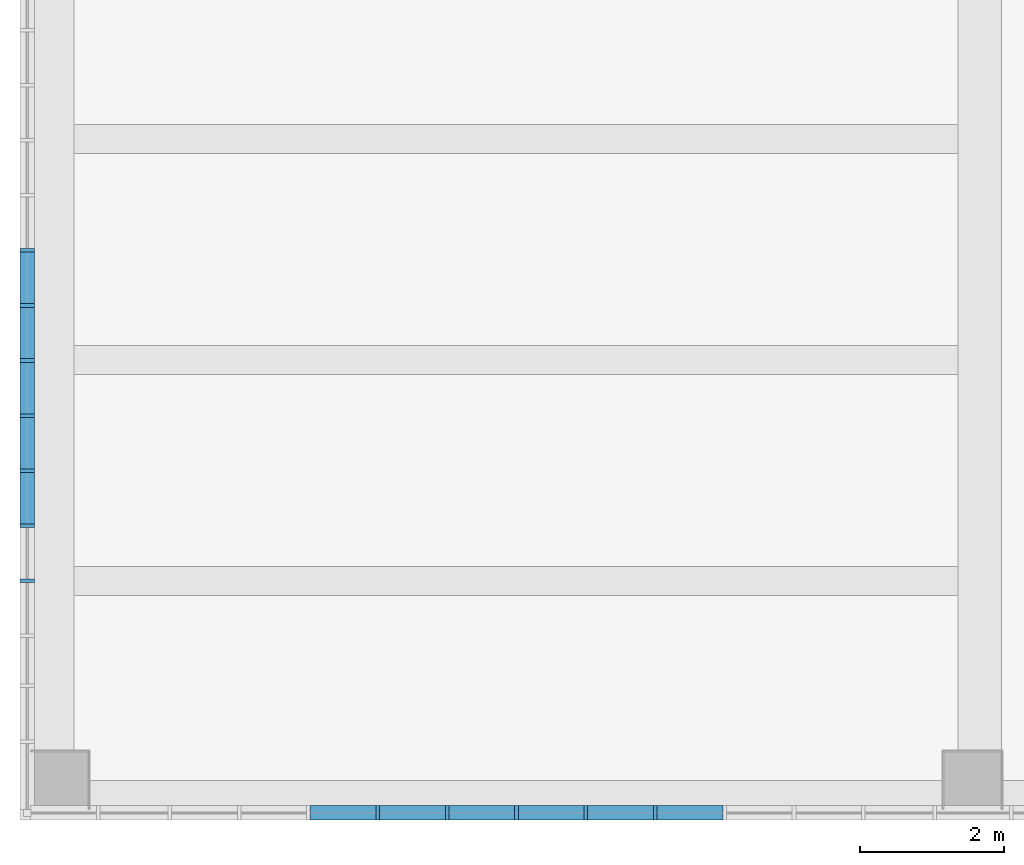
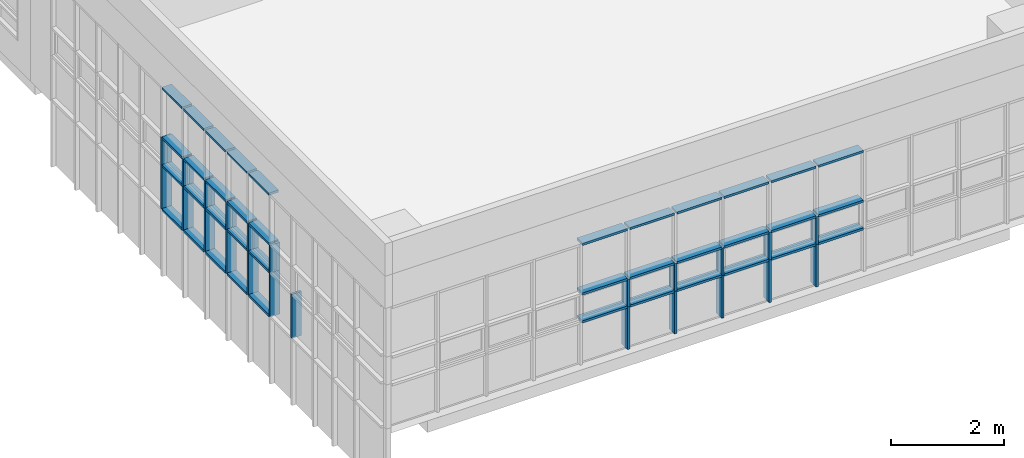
# One storey, part 11 of 81: 61 members, 2 elements without a shape of their own.
"""IFC2X3 building model written with IfcOpenShell, lengths in millimetres."""

from ifc_helpers import new_model, entity, si_unit, converted_unit, derived_unit, direction, frame, origin, origin_2d_with_axis, place, context, subcontext, project, spatial, rectangle, extrude, source, transform, mapped, material, type_object, type_shapes, element, aggregate, save


model = new_model("IFC2X3")

# Units and contexts
model_context = context("Model", 3, precision=0.01, world=origin(), true_north=direction((6.123031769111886e-17, 1.0)))
body_context = subcontext(model_context, "Body", "Model", "MODEL_VIEW")
ifc_project = project(units=[si_unit("LENGTHUNIT", "METRE", prefix="MILLI"), si_unit("AREAUNIT", "SQUARE_METRE"), si_unit("VOLUMEUNIT", "CUBIC_METRE"), converted_unit("PLANEANGLEUNIT", "DEGREE", entity("IfcRatioMeasure", 0.017453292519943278), si_unit("PLANEANGLEUNIT", "RADIAN"), dimensions=[0, 0, 0, 0, 0, 0, 0]), si_unit("MASSUNIT", "GRAM", prefix="KILO"), derived_unit("MASSDENSITYUNIT", [(si_unit("MASSUNIT", "GRAM", prefix="KILO"), 1), (si_unit("LENGTHUNIT", "METRE"), -3)]), derived_unit("MOMENTOFINERTIAUNIT", [(si_unit("LENGTHUNIT", "METRE"), 4)]), si_unit("TIMEUNIT", "SECOND"), si_unit("FREQUENCYUNIT", "HERTZ"), si_unit("THERMODYNAMICTEMPERATUREUNIT", "DEGREE_CELSIUS"), derived_unit("THERMALTRANSMITTANCEUNIT", [(si_unit("MASSUNIT", "GRAM", prefix="KILO"), 1), (si_unit("THERMODYNAMICTEMPERATUREUNIT", "KELVIN"), -1), (si_unit("TIMEUNIT", "SECOND"), -3)]), derived_unit("VOLUMETRICFLOWRATEUNIT", [(si_unit("LENGTHUNIT", "METRE"), 3), (si_unit("TIMEUNIT", "SECOND"), -1)]), derived_unit("MASSFLOWRATEUNIT", [(si_unit("MASSUNIT", "GRAM", prefix="KILO"), 1), (si_unit("TIMEUNIT", "SECOND"), -1)]), derived_unit("ROTATIONALFREQUENCYUNIT", [(si_unit("TIMEUNIT", "SECOND"), -1)]), si_unit("ELECTRICCURRENTUNIT", "AMPERE"), si_unit("ELECTRICVOLTAGEUNIT", "VOLT"), si_unit("POWERUNIT", "WATT"), si_unit("FORCEUNIT", "NEWTON", prefix="KILO"), si_unit("ILLUMINANCEUNIT", "LUX"), si_unit("LUMINOUSFLUXUNIT", "LUMEN"), si_unit("LUMINOUSINTENSITYUNIT", "CANDELA"), derived_unit("USERDEFINED", [(si_unit("MASSUNIT", "GRAM", prefix="KILO"), -1), (si_unit("LENGTHUNIT", "METRE"), -2), (si_unit("TIMEUNIT", "SECOND"), 3), (si_unit("LUMINOUSFLUXUNIT", "LUMEN"), 1)]), derived_unit("SOUNDPOWERUNIT", [(si_unit("MASSUNIT", "GRAM", prefix="KILO"), 1), (si_unit("LENGTHUNIT", "METRE"), 2), (si_unit("TIMEUNIT", "SECOND"), -3)]), derived_unit("SOUNDPRESSUREUNIT", [(si_unit("MASSUNIT", "GRAM", prefix="KILO"), 1), (si_unit("LENGTHUNIT", "METRE"), -1), (si_unit("TIMEUNIT", "SECOND"), -2)]), derived_unit("LINEARVELOCITYUNIT", [(si_unit("LENGTHUNIT", "METRE"), 1), (si_unit("TIMEUNIT", "SECOND"), -1)]), si_unit("PRESSUREUNIT", "PASCAL"), derived_unit("USERDEFINED", [(si_unit("LENGTHUNIT", "METRE"), -2), (si_unit("MASSUNIT", "GRAM", prefix="KILO"), 1), (si_unit("TIMEUNIT", "SECOND"), -2)]), derived_unit("LINEARFORCEUNIT", [(si_unit("MASSUNIT", "GRAM", prefix="KILO"), 1), (si_unit("LENGTHUNIT", "METRE"), 1), (si_unit("TIMEUNIT", "SECOND"), -2), (si_unit("LENGTHUNIT", "METRE"), -1)]), derived_unit("PLANARFORCEUNIT", [(si_unit("MASSUNIT", "GRAM", prefix="KILO"), 1), (si_unit("LENGTHUNIT", "METRE"), 1), (si_unit("TIMEUNIT", "SECOND"), -2), (si_unit("LENGTHUNIT", "METRE"), -2)])], contexts=[model_context])

# Site, building, storey
site_placement = place(None, frame((-14167.972527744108, -657.2125860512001, 0.0)))
site = spatial("IfcSite", under=ifc_project, at=site_placement, Name="Default", CompositionType="ELEMENT")
building_placement = place(site_placement, origin())
building = spatial("IfcBuilding", under=site, at=building_placement, Name="Sample Building", CompositionType="ELEMENT")
storey_placement = place(building_placement, frame((0.0, 0.0, 13400.0)))
storey = spatial("IfcBuildingStorey", under=building, at=storey_placement, Name="지상 4층", CompositionType="ELEMENT", Elevation=13400.00000000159)

# Curtain wall, members
curtain_wall_type = type_object("IfcCurtainWallType", Name="커튼월:CW112-스테인리스 스틸 커튼월", PredefinedType="NOTDEFINED")
curtain_wall_1_placement = place(storey_placement, frame((0.0, 0.0, -13400.0)))
curtain_wall_1 = element("IfcCurtainWall", 1, at=curtain_wall_1_placement, inside=storey, type_object=curtain_wall_type, Name="커튼월:CW112-스테인리스 스틸 커튼월", ObjectType="커튼월:CW112-스테인리스 스틸 커튼월")
ifc_material = material(Name="<Unnamed>")
member_type_1 = type_object("IfcMemberType", Name="직사각형 멀리언:CW200-직사각형 멀리언 50x200mm", PredefinedType="MULLION", material=ifc_material)
shared_shape_1 = source(origin(), body_context, "Body", "SweptSolid", [
    extrude(rectangle(XDim=200.0, YDim=50.0, at=origin_2d_with_axis()), frame((0.0, 0.0, -600.0), z_axis=(0.0, 0.0, 1.0), x_axis=(0.0, -1.0, 0.0)), (0.0, 0.0, 1.0), 600.0),
])
type_shapes(member_type_1, [shared_shape_1])
member_1_placement = place(curtain_wall_1_placement, frame((14017.955105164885, 4501.817707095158, 14400.0), z_axis=(0.0, 0.0, -1.0), x_axis=(0.0, -1.0, 0.0)))
member_1 = element("IfcMember", 2, at=member_1_placement, type_object=member_type_1, material=ifc_material, Name="직사각형 멀리언:CW200-직사각형 멀리언 50x200mm", ObjectType="직사각형 멀리언:CW200-직사각형 멀리언 50x200mm", context=body_context, shape_type="MappedRepresentation", body=[
    mapped(shared_shape_1, transform((0.0, 0.0, 0.0), scale=1.0)),
])
member_2_placement = place(curtain_wall_1_placement, frame((14017.955105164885, 5267.817707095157, 14400.0), z_axis=(0.0, 0.0, -1.0), x_axis=(0.0, -1.0, 0.0)))
member_2 = element("IfcMember", 3, at=member_2_placement, type_object=member_type_1, material=ifc_material, Name="직사각형 멀리언:CW200-직사각형 멀리언 50x200mm", ObjectType="직사각형 멀리언:CW200-직사각형 멀리언 50x200mm", context=body_context, shape_type="MappedRepresentation", body=[
    mapped(shared_shape_1, transform((0.0, 0.0, 0.0), scale=1.0)),
])
member_3_placement = place(curtain_wall_1_placement, frame((14017.955105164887, 6033.817707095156, 14400.0), z_axis=(0.0, 0.0, -1.0), x_axis=(0.0, -1.0, 0.0)))
member_3 = element("IfcMember", 4, at=member_3_placement, type_object=member_type_1, material=ifc_material, Name="직사각형 멀리언:CW200-직사각형 멀리언 50x200mm", ObjectType="직사각형 멀리언:CW200-직사각형 멀리언 50x200mm", context=body_context, shape_type="MappedRepresentation", body=[
    mapped(shared_shape_1, transform((0.0, 0.0, 0.0), scale=1.0)),
])
member_4_placement = place(curtain_wall_1_placement, frame((14017.955105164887, 6799.817707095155, 14400.0), z_axis=(0.0, 0.0, -1.0), x_axis=(0.0, -1.0, 0.0)))
member_4 = element("IfcMember", 5, at=member_4_placement, type_object=member_type_1, material=ifc_material, Name="직사각형 멀리언:CW200-직사각형 멀리언 50x200mm", ObjectType="직사각형 멀리언:CW200-직사각형 멀리언 50x200mm", context=body_context, shape_type="MappedRepresentation", body=[
    mapped(shared_shape_1, transform((0.0, 0.0, 0.0), scale=1.0)),
])
member_5_placement = place(curtain_wall_1_placement, frame((14017.955105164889, 7565.817707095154, 14400.0), z_axis=(0.0, 0.0, -1.0), x_axis=(0.0, -1.0, 0.0)))
member_5 = element("IfcMember", 6, at=member_5_placement, type_object=member_type_1, material=ifc_material, Name="직사각형 멀리언:CW200-직사각형 멀리언 50x200mm", ObjectType="직사각형 멀리언:CW200-직사각형 멀리언 50x200mm", context=body_context, shape_type="MappedRepresentation", body=[
    mapped(shared_shape_1, transform((0.0, 0.0, 0.0), scale=1.0)),
])
member_6_placement = place(curtain_wall_1_placement, frame((14017.955105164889, 8331.817707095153, 14400.0), z_axis=(0.0, 0.0, -1.0), x_axis=(0.0, -1.0, 0.0)))
member_6 = element("IfcMember", 7, at=member_6_placement, type_object=member_type_1, material=ifc_material, Name="직사각형 멀리언:CW200-직사각형 멀리언 50x200mm", ObjectType="직사각형 멀리언:CW200-직사각형 멀리언 50x200mm", context=body_context, shape_type="MappedRepresentation", body=[
    mapped(shared_shape_1, transform((0.0, 0.0, 0.0), scale=1.0)),
])

curtain_wall_2_placement = place(storey_placement, frame((0.0, 0.0, -13400.0)))
curtain_wall_2 = element("IfcCurtainWall", 8, at=curtain_wall_2_placement, inside=storey, type_object=curtain_wall_type, Name="커튼월:CW112-스테인리스 스틸 커튼월", ObjectType="커튼월:CW112-스테인리스 스틸 커튼월")
member_7_placement = place(curtain_wall_2_placement, frame((18895.156070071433, 507.2122951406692, 14400.0), z_axis=(0.0, 0.0, -1.0), x_axis=(1.0, 0.0, 0.0)))
member_7 = element("IfcMember", 9, at=member_7_placement, type_object=member_type_1, material=ifc_material, Name="직사각형 멀리언:CW200-직사각형 멀리언 50x200mm", ObjectType="직사각형 멀리언:CW200-직사각형 멀리언 50x200mm", context=body_context, shape_type="MappedRepresentation", body=[
    mapped(shared_shape_1, transform((0.0, 0.0, 0.0), scale=1.0)),
])
member_8_placement = place(curtain_wall_2_placement, frame((19860.156070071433, 507.212295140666, 14400.0), z_axis=(0.0, 0.0, -1.0), x_axis=(1.0, 0.0, 0.0)))
member_8 = element("IfcMember", 10, at=member_8_placement, type_object=member_type_1, material=ifc_material, Name="직사각형 멀리언:CW200-직사각형 멀리언 50x200mm", ObjectType="직사각형 멀리언:CW200-직사각형 멀리언 50x200mm", context=body_context, shape_type="MappedRepresentation", body=[
    mapped(shared_shape_1, transform((0.0, 0.0, 0.0), scale=1.0)),
])
member_9_placement = place(curtain_wall_2_placement, frame((20825.156070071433, 507.21229514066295, 14400.0), z_axis=(0.0, 0.0, -1.0), x_axis=(1.0, 0.0, 0.0)))
member_9 = element("IfcMember", 11, at=member_9_placement, type_object=member_type_1, material=ifc_material, Name="직사각형 멀리언:CW200-직사각형 멀리언 50x200mm", ObjectType="직사각형 멀리언:CW200-직사각형 멀리언 50x200mm", context=body_context, shape_type="MappedRepresentation", body=[
    mapped(shared_shape_1, transform((0.0, 0.0, 0.0), scale=1.0)),
])
member_10_placement = place(curtain_wall_2_placement, frame((21790.156070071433, 507.2122951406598, 14400.0), z_axis=(0.0, 0.0, -1.0), x_axis=(1.0, 0.0, 0.0)))
member_10 = element("IfcMember", 12, at=member_10_placement, type_object=member_type_1, material=ifc_material, Name="직사각형 멀리언:CW200-직사각형 멀리언 50x200mm", ObjectType="직사각형 멀리언:CW200-직사각형 멀리언 50x200mm", context=body_context, shape_type="MappedRepresentation", body=[
    mapped(shared_shape_1, transform((0.0, 0.0, 0.0), scale=1.0)),
])
member_11_placement = place(curtain_wall_2_placement, frame((22755.156070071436, 507.2122951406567, 14400.0), z_axis=(0.0, 0.0, -1.0), x_axis=(1.0, 0.0, 0.0)))
member_11 = element("IfcMember", 13, at=member_11_placement, type_object=member_type_1, material=ifc_material, Name="직사각형 멀리언:CW200-직사각형 멀리언 50x200mm", ObjectType="직사각형 멀리언:CW200-직사각형 멀리언 50x200mm", context=body_context, shape_type="MappedRepresentation", body=[
    mapped(shared_shape_1, transform((0.0, 0.0, 0.0), scale=1.0)),
])

# Member
member_type_2 = type_object("IfcMemberType", Name="직사각형 멀리언:CW200-직사각형 멀리언 50x200mm", PredefinedType="MULLION", material=ifc_material)
shared_shape_2 = source(origin(), body_context, "Body", "SweptSolid", [
    extrude(rectangle(XDim=200.0, YDim=50.0, at=origin_2d_with_axis()), frame((0.0, 0.0, -716.0), z_axis=(0.0, 0.0, 1.0), x_axis=(0.0, -1.0, 0.0)), (0.0, 0.0, 1.0), 715.9999999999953),
])
type_shapes(member_type_2, [shared_shape_2])
member_12_placement = place(curtain_wall_1_placement, frame((14017.955105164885, 4526.817707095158, 14400.0), z_axis=(0.0, -1.0, 0.0), x_axis=(0.0, 0.0, 1.0)))
member_12 = element("IfcMember", 14, at=member_12_placement, type_object=member_type_2, material=ifc_material, Name="직사각형 멀리언:CW200-직사각형 멀리언 50x200mm", ObjectType="직사각형 멀리언:CW200-직사각형 멀리언 50x200mm", context=body_context, shape_type="MappedRepresentation", body=[
    mapped(shared_shape_2, transform((0.0, 0.0, 0.0), scale=1.0)),
])

member_13_placement = place(curtain_wall_1_placement, frame((14017.955105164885, 4526.8177070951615, 15000.0), z_axis=(0.0, -1.0, 0.0), x_axis=(0.0, 0.0, 1.0)))
member_13 = element("IfcMember", 15, at=member_13_placement, type_object=member_type_2, material=ifc_material, Name="직사각형 멀리언:CW200-직사각형 멀리언 50x200mm", ObjectType="직사각형 멀리언:CW200-직사각형 멀리언 50x200mm", context=body_context, shape_type="MappedRepresentation", body=[
    mapped(shared_shape_2, transform((0.0, 0.0, 0.0), scale=1.0)),
])

member_14_placement = place(curtain_wall_1_placement, frame((14017.955105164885, 5292.817707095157, 14400.0), z_axis=(0.0, -1.0, 0.0), x_axis=(0.0, 0.0, 1.0)))
member_14 = element("IfcMember", 16, at=member_14_placement, type_object=member_type_2, material=ifc_material, Name="직사각형 멀리언:CW200-직사각형 멀리언 50x200mm", ObjectType="직사각형 멀리언:CW200-직사각형 멀리언 50x200mm", context=body_context, shape_type="MappedRepresentation", body=[
    mapped(shared_shape_2, transform((0.0, 0.0, 0.0), scale=1.0)),
])

member_15_placement = place(curtain_wall_1_placement, frame((14017.955105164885, 5292.817707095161, 15000.0), z_axis=(0.0, -1.0, 0.0), x_axis=(0.0, 0.0, 1.0)))
member_15 = element("IfcMember", 17, at=member_15_placement, type_object=member_type_2, material=ifc_material, Name="직사각형 멀리언:CW200-직사각형 멀리언 50x200mm", ObjectType="직사각형 멀리언:CW200-직사각형 멀리언 50x200mm", context=body_context, shape_type="MappedRepresentation", body=[
    mapped(shared_shape_2, transform((0.0, 0.0, 0.0), scale=1.0)),
])

member_16_placement = place(curtain_wall_1_placement, frame((14017.955105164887, 6058.817707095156, 14400.0), z_axis=(0.0, -1.0, 0.0), x_axis=(0.0, 0.0, 1.0)))
member_16 = element("IfcMember", 18, at=member_16_placement, type_object=member_type_2, material=ifc_material, Name="직사각형 멀리언:CW200-직사각형 멀리언 50x200mm", ObjectType="직사각형 멀리언:CW200-직사각형 멀리언 50x200mm", context=body_context, shape_type="MappedRepresentation", body=[
    mapped(shared_shape_2, transform((0.0, 0.0, 0.0), scale=1.0)),
])

member_17_placement = place(curtain_wall_1_placement, frame((14017.955105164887, 6058.817707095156, 15000.0), z_axis=(0.0, -1.0, 0.0), x_axis=(0.0, 0.0, 1.0)))
member_17 = element("IfcMember", 19, at=member_17_placement, type_object=member_type_2, material=ifc_material, Name="직사각형 멀리언:CW200-직사각형 멀리언 50x200mm", ObjectType="직사각형 멀리언:CW200-직사각형 멀리언 50x200mm", context=body_context, shape_type="MappedRepresentation", body=[
    mapped(shared_shape_2, transform((0.0, 0.0, 0.0), scale=1.0)),
])

member_18_placement = place(curtain_wall_1_placement, frame((14017.955105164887, 6824.817707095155, 14400.0), z_axis=(0.0, -1.0, 0.0), x_axis=(0.0, 0.0, 1.0)))
member_18 = element("IfcMember", 20, at=member_18_placement, type_object=member_type_2, material=ifc_material, Name="직사각형 멀리언:CW200-직사각형 멀리언 50x200mm", ObjectType="직사각형 멀리언:CW200-직사각형 멀리언 50x200mm", context=body_context, shape_type="MappedRepresentation", body=[
    mapped(shared_shape_2, transform((0.0, 0.0, 0.0), scale=1.0)),
])

member_19_placement = place(curtain_wall_1_placement, frame((14017.955105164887, 6824.817707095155, 15000.0), z_axis=(0.0, -1.0, 0.0), x_axis=(0.0, 0.0, 1.0)))
member_19 = element("IfcMember", 21, at=member_19_placement, type_object=member_type_2, material=ifc_material, Name="직사각형 멀리언:CW200-직사각형 멀리언 50x200mm", ObjectType="직사각형 멀리언:CW200-직사각형 멀리언 50x200mm", context=body_context, shape_type="MappedRepresentation", body=[
    mapped(shared_shape_2, transform((0.0, 0.0, 0.0), scale=1.0)),
])

member_20_placement = place(curtain_wall_1_placement, frame((14017.955105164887, 6824.817707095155, 13450.0), z_axis=(0.0, -1.0, 0.0), x_axis=(0.0, 0.0, 1.0)))
member_20 = element("IfcMember", 22, at=member_20_placement, type_object=member_type_2, material=ifc_material, Name="직사각형 멀리언:CW200-직사각형 멀리언 50x200mm", ObjectType="직사각형 멀리언:CW200-직사각형 멀리언 50x200mm", context=body_context, shape_type="MappedRepresentation", body=[
    mapped(shared_shape_2, transform((0.0, 0.0, 0.0), scale=1.0)),
])

member_21_placement = place(curtain_wall_1_placement, frame((14017.955105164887, 6058.81770709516, 13450.0), z_axis=(0.0, -1.0, 0.0), x_axis=(0.0, 0.0, 1.0)))
member_21 = element("IfcMember", 23, at=member_21_placement, type_object=member_type_2, material=ifc_material, Name="직사각형 멀리언:CW200-직사각형 멀리언 50x200mm", ObjectType="직사각형 멀리언:CW200-직사각형 멀리언 50x200mm", context=body_context, shape_type="MappedRepresentation", body=[
    mapped(shared_shape_2, transform((0.0, 0.0, 0.0), scale=1.0)),
])

member_22_placement = place(curtain_wall_1_placement, frame((14017.955105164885, 5292.817707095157, 13450.0), z_axis=(0.0, -1.0, 0.0), x_axis=(0.0, 0.0, 1.0)))
member_22 = element("IfcMember", 24, at=member_22_placement, type_object=member_type_2, material=ifc_material, Name="직사각형 멀리언:CW200-직사각형 멀리언 50x200mm", ObjectType="직사각형 멀리언:CW200-직사각형 멀리언 50x200mm", context=body_context, shape_type="MappedRepresentation", body=[
    mapped(shared_shape_2, transform((0.0, 0.0, 0.0), scale=1.0)),
])

member_23_placement = place(curtain_wall_1_placement, frame((14017.955105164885, 4526.817707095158, 13450.0), z_axis=(0.0, -1.0, 0.0), x_axis=(0.0, 0.0, 1.0)))
member_23 = element("IfcMember", 25, at=member_23_placement, type_object=member_type_2, material=ifc_material, Name="직사각형 멀리언:CW200-직사각형 멀리언 50x200mm", ObjectType="직사각형 멀리언:CW200-직사각형 멀리언 50x200mm", context=body_context, shape_type="MappedRepresentation", body=[
    mapped(shared_shape_2, transform((0.0, 0.0, 0.0), scale=1.0)),
])

member_24_placement = place(curtain_wall_1_placement, frame((14017.955105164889, 7590.817707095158, 13450.0), z_axis=(0.0, -1.0, 0.0), x_axis=(0.0, 0.0, 1.0)))
member_24 = element("IfcMember", 26, at=member_24_placement, type_object=member_type_2, material=ifc_material, Name="직사각형 멀리언:CW200-직사각형 멀리언 50x200mm", ObjectType="직사각형 멀리언:CW200-직사각형 멀리언 50x200mm", context=body_context, shape_type="MappedRepresentation", body=[
    mapped(shared_shape_2, transform((0.0, 0.0, 0.0), scale=1.0)),
])

member_25_placement = place(curtain_wall_1_placement, frame((14017.955105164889, 7590.817707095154, 14400.0), z_axis=(0.0, -1.0, 0.0), x_axis=(0.0, 0.0, 1.0)))
member_25 = element("IfcMember", 27, at=member_25_placement, type_object=member_type_2, material=ifc_material, Name="직사각형 멀리언:CW200-직사각형 멀리언 50x200mm", ObjectType="직사각형 멀리언:CW200-직사각형 멀리언 50x200mm", context=body_context, shape_type="MappedRepresentation", body=[
    mapped(shared_shape_2, transform((0.0, 0.0, 0.0), scale=1.0)),
])

member_26_placement = place(curtain_wall_1_placement, frame((14017.955105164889, 7590.817707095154, 15000.0), z_axis=(0.0, -1.0, 0.0), x_axis=(0.0, 0.0, 1.0)))
member_26 = element("IfcMember", 28, at=member_26_placement, type_object=member_type_2, material=ifc_material, Name="직사각형 멀리언:CW200-직사각형 멀리언 50x200mm", ObjectType="직사각형 멀리언:CW200-직사각형 멀리언 50x200mm", context=body_context, shape_type="MappedRepresentation", body=[
    mapped(shared_shape_2, transform((0.0, 0.0, 0.0), scale=1.0)),
])

member_type_3 = type_object("IfcMemberType", Name="직사각형 멀리언:CW200-직사각형 멀리언 50x200mm", PredefinedType="MULLION", material=ifc_material)
shared_shape_3 = source(origin(), body_context, "Body", "SweptSolid", [
    extrude(rectangle(XDim=200.0, YDim=50.0, at=origin_2d_with_axis()), frame((-25.0, 0.0, -716.0), z_axis=(0.0, 0.0, 1.0), x_axis=(0.0, -1.0, 0.0)), (0.0, 0.0, 1.0), 715.9999999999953),
])
type_shapes(member_type_3, [shared_shape_3])
member_27_placement = place(curtain_wall_1_placement, frame((14017.955105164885, 4526.817707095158, 16100.0), z_axis=(0.0, -1.0, 0.0), x_axis=(0.0, 0.0, 1.0)))
member_27 = element("IfcMember", 29, at=member_27_placement, type_object=member_type_3, material=ifc_material, Name="직사각형 멀리언:CW200-직사각형 멀리언 50x200mm", ObjectType="직사각형 멀리언:CW200-직사각형 멀리언 50x200mm", context=body_context, shape_type="MappedRepresentation", body=[
    mapped(shared_shape_3, transform((0.0, 0.0, 0.0), scale=1.0)),
])

member_28_placement = place(curtain_wall_1_placement, frame((14017.955105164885, 5292.817707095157, 16100.0), z_axis=(0.0, -1.0, 0.0), x_axis=(0.0, 0.0, 1.0)))
member_28 = element("IfcMember", 30, at=member_28_placement, type_object=member_type_3, material=ifc_material, Name="직사각형 멀리언:CW200-직사각형 멀리언 50x200mm", ObjectType="직사각형 멀리언:CW200-직사각형 멀리언 50x200mm", context=body_context, shape_type="MappedRepresentation", body=[
    mapped(shared_shape_3, transform((0.0, 0.0, 0.0), scale=1.0)),
])

member_29_placement = place(curtain_wall_1_placement, frame((14017.955105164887, 6058.817707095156, 16100.0), z_axis=(0.0, -1.0, 0.0), x_axis=(0.0, 0.0, 1.0)))
member_29 = element("IfcMember", 31, at=member_29_placement, type_object=member_type_3, material=ifc_material, Name="직사각형 멀리언:CW200-직사각형 멀리언 50x200mm", ObjectType="직사각형 멀리언:CW200-직사각형 멀리언 50x200mm", context=body_context, shape_type="MappedRepresentation", body=[
    mapped(shared_shape_3, transform((0.0, 0.0, 0.0), scale=1.0)),
])

member_30_placement = place(curtain_wall_1_placement, frame((14017.955105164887, 6824.817707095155, 16100.0), z_axis=(0.0, -1.0, 0.0), x_axis=(0.0, 0.0, 1.0)))
member_30 = element("IfcMember", 32, at=member_30_placement, type_object=member_type_3, material=ifc_material, Name="직사각형 멀리언:CW200-직사각형 멀리언 50x200mm", ObjectType="직사각형 멀리언:CW200-직사각형 멀리언 50x200mm", context=body_context, shape_type="MappedRepresentation", body=[
    mapped(shared_shape_3, transform((0.0, 0.0, 0.0), scale=1.0)),
])

member_31_placement = place(curtain_wall_1_placement, frame((14017.955105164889, 7590.817707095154, 16100.0), z_axis=(0.0, -1.0, 0.0), x_axis=(0.0, 0.0, 1.0)))
member_31 = element("IfcMember", 33, at=member_31_placement, type_object=member_type_3, material=ifc_material, Name="직사각형 멀리언:CW200-직사각형 멀리언 50x200mm", ObjectType="직사각형 멀리언:CW200-직사각형 멀리언 50x200mm", context=body_context, shape_type="MappedRepresentation", body=[
    mapped(shared_shape_3, transform((0.0, 0.0, 0.0), scale=1.0)),
])

member_type_4 = type_object("IfcMemberType", Name="직사각형 멀리언:CW200-직사각형 멀리언 50x200mm", PredefinedType="MULLION", material=ifc_material)
shared_shape_4 = source(origin(), body_context, "Body", "SweptSolid", [
    extrude(rectangle(XDim=200.0, YDim=50.0, at=origin_2d_with_axis()), frame((0.0, 0.0, -950.0), z_axis=(0.0, 0.0, 1.0), x_axis=(0.0, -1.0, 0.0)), (0.0, 0.0, 1.0), 949.9999999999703),
])
type_shapes(member_type_4, [shared_shape_4])
member_32_placement = place(curtain_wall_1_placement, frame((14017.955105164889, 7565.817707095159, 13450.0), z_axis=(0.0, 0.0, -1.0), x_axis=(0.0, -1.0, 0.0)))
member_32 = element("IfcMember", 34, at=member_32_placement, type_object=member_type_4, material=ifc_material, Name="직사각형 멀리언:CW200-직사각형 멀리언 50x200mm", ObjectType="직사각형 멀리언:CW200-직사각형 멀리언 50x200mm", context=body_context, shape_type="MappedRepresentation", body=[
    mapped(shared_shape_4, transform((0.0, 0.0, 0.0), scale=1.0)),
])

member_33_placement = place(curtain_wall_1_placement, frame((14017.955105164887, 6799.817707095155, 13450.0), z_axis=(0.0, 0.0, -1.0), x_axis=(0.0, -1.0, 0.0)))
member_33 = element("IfcMember", 35, at=member_33_placement, type_object=member_type_4, material=ifc_material, Name="직사각형 멀리언:CW200-직사각형 멀리언 50x200mm", ObjectType="직사각형 멀리언:CW200-직사각형 멀리언 50x200mm", context=body_context, shape_type="MappedRepresentation", body=[
    mapped(shared_shape_4, transform((0.0, 0.0, 0.0), scale=1.0)),
])

member_34_placement = place(curtain_wall_1_placement, frame((14017.955105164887, 6033.817707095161, 13450.0), z_axis=(0.0, 0.0, -1.0), x_axis=(0.0, -1.0, 0.0)))
member_34 = element("IfcMember", 36, at=member_34_placement, type_object=member_type_4, material=ifc_material, Name="직사각형 멀리언:CW200-직사각형 멀리언 50x200mm", ObjectType="직사각형 멀리언:CW200-직사각형 멀리언 50x200mm", context=body_context, shape_type="MappedRepresentation", body=[
    mapped(shared_shape_4, transform((0.0, 0.0, 0.0), scale=1.0)),
])

member_35_placement = place(curtain_wall_1_placement, frame((14017.955105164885, 5267.817707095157, 13450.0), z_axis=(0.0, 0.0, -1.0), x_axis=(0.0, -1.0, 0.0)))
member_35 = element("IfcMember", 37, at=member_35_placement, type_object=member_type_4, material=ifc_material, Name="직사각형 멀리언:CW200-직사각형 멀리언 50x200mm", ObjectType="직사각형 멀리언:CW200-직사각형 멀리언 50x200mm", context=body_context, shape_type="MappedRepresentation", body=[
    mapped(shared_shape_4, transform((0.0, 0.0, 0.0), scale=1.0)),
])

member_36_placement = place(curtain_wall_1_placement, frame((14017.955105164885, 4501.817707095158, 13450.0), z_axis=(0.0, 0.0, -1.0), x_axis=(0.0, -1.0, 0.0)))
member_36 = element("IfcMember", 38, at=member_36_placement, type_object=member_type_4, material=ifc_material, Name="직사각형 멀리언:CW200-직사각형 멀리언 50x200mm", ObjectType="직사각형 멀리언:CW200-직사각형 멀리언 50x200mm", context=body_context, shape_type="MappedRepresentation", body=[
    mapped(shared_shape_4, transform((0.0, 0.0, 0.0), scale=1.0)),
])

member_37_placement = place(curtain_wall_1_placement, frame((14017.955105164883, 3735.817707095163, 13450.0), z_axis=(0.0, 0.0, -1.0), x_axis=(0.0, -1.0, 0.0)))
member_37 = element("IfcMember", 39, at=member_37_placement, type_object=member_type_4, material=ifc_material, Name="직사각형 멀리언:CW200-직사각형 멀리언 50x200mm", ObjectType="직사각형 멀리언:CW200-직사각형 멀리언 50x200mm", context=body_context, shape_type="MappedRepresentation", body=[
    mapped(shared_shape_4, transform((0.0, 0.0, 0.0), scale=1.0)),
])

member_38_placement = place(curtain_wall_1_placement, frame((14017.955105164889, 8331.817707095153, 13450.0), z_axis=(0.0, 0.0, -1.0), x_axis=(0.0, -1.0, 0.0)))
member_38 = element("IfcMember", 40, at=member_38_placement, type_object=member_type_4, material=ifc_material, Name="직사각형 멀리언:CW200-직사각형 멀리언 50x200mm", ObjectType="직사각형 멀리언:CW200-직사각형 멀리언 50x200mm", context=body_context, shape_type="MappedRepresentation", body=[
    mapped(shared_shape_4, transform((0.0, 0.0, 0.0), scale=1.0)),
])

aggregate(curtain_wall_1, [member_27, member_1, member_12, member_13, member_28, member_2, member_14, member_15, member_29, member_3, member_16, member_17, member_30, member_4, member_18, member_19, member_31, member_5, member_20, member_21, member_22, member_23, member_32, member_33, member_34, member_35, member_36, member_37, member_24, member_25, member_26, member_38, member_6])

member_type_5 = type_object("IfcMemberType", Name="직사각형 멀리언:CW200-직사각형 멀리언 50x200mm", PredefinedType="MULLION", material=ifc_material)
shared_shape_5 = source(origin(), body_context, "Body", "SweptSolid", [
    extrude(rectangle(XDim=200.0, YDim=50.0, at=origin_2d_with_axis()), frame((0.0, 0.0, -915.0), z_axis=(0.0, 0.0, 1.0), x_axis=(0.0, -1.0, 0.0)), (0.0, 0.0, 1.0), 915.000000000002),
])
type_shapes(member_type_5, [shared_shape_5])
member_39_placement = place(curtain_wall_2_placement, frame((18870.156070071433, 507.2122951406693, 14400.0), z_axis=(1.0, 0.0, 0.0), x_axis=(0.0, 0.0, 1.0)))
member_39 = element("IfcMember", 41, at=member_39_placement, type_object=member_type_5, material=ifc_material, Name="직사각형 멀리언:CW200-직사각형 멀리언 50x200mm", ObjectType="직사각형 멀리언:CW200-직사각형 멀리언 50x200mm", context=body_context, shape_type="MappedRepresentation", body=[
    mapped(shared_shape_5, transform((0.0, 0.0, 0.0), scale=1.0)),
])

member_40_placement = place(curtain_wall_2_placement, frame((18870.156070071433, 507.2122951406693, 15000.0), z_axis=(1.0, 0.0, 0.0), x_axis=(0.0, 0.0, 1.0)))
member_40 = element("IfcMember", 42, at=member_40_placement, type_object=member_type_5, material=ifc_material, Name="직사각형 멀리언:CW200-직사각형 멀리언 50x200mm", ObjectType="직사각형 멀리언:CW200-직사각형 멀리언 50x200mm", context=body_context, shape_type="MappedRepresentation", body=[
    mapped(shared_shape_5, transform((0.0, 0.0, 0.0), scale=1.0)),
])

member_41_placement = place(curtain_wall_2_placement, frame((19835.156070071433, 507.21229514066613, 14400.0), z_axis=(1.0, 0.0, 0.0), x_axis=(0.0, 0.0, 1.0)))
member_41 = element("IfcMember", 43, at=member_41_placement, type_object=member_type_5, material=ifc_material, Name="직사각형 멀리언:CW200-직사각형 멀리언 50x200mm", ObjectType="직사각형 멀리언:CW200-직사각형 멀리언 50x200mm", context=body_context, shape_type="MappedRepresentation", body=[
    mapped(shared_shape_5, transform((0.0, 0.0, 0.0), scale=1.0)),
])

member_42_placement = place(curtain_wall_2_placement, frame((19835.156070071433, 507.21229514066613, 15000.0), z_axis=(1.0, 0.0, 0.0), x_axis=(0.0, 0.0, 1.0)))
member_42 = element("IfcMember", 44, at=member_42_placement, type_object=member_type_5, material=ifc_material, Name="직사각형 멀리언:CW200-직사각형 멀리언 50x200mm", ObjectType="직사각형 멀리언:CW200-직사각형 멀리언 50x200mm", context=body_context, shape_type="MappedRepresentation", body=[
    mapped(shared_shape_5, transform((0.0, 0.0, 0.0), scale=1.0)),
])

member_43_placement = place(curtain_wall_2_placement, frame((20800.156070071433, 507.212295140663, 14400.0), z_axis=(1.0, 0.0, 0.0), x_axis=(0.0, 0.0, 1.0)))
member_43 = element("IfcMember", 45, at=member_43_placement, type_object=member_type_5, material=ifc_material, Name="직사각형 멀리언:CW200-직사각형 멀리언 50x200mm", ObjectType="직사각형 멀리언:CW200-직사각형 멀리언 50x200mm", context=body_context, shape_type="MappedRepresentation", body=[
    mapped(shared_shape_5, transform((0.0, 0.0, 0.0), scale=1.0)),
])

member_44_placement = place(curtain_wall_2_placement, frame((20800.156070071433, 507.212295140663, 15000.0), z_axis=(1.0, 0.0, 0.0), x_axis=(0.0, 0.0, 1.0)))
member_44 = element("IfcMember", 46, at=member_44_placement, type_object=member_type_5, material=ifc_material, Name="직사각형 멀리언:CW200-직사각형 멀리언 50x200mm", ObjectType="직사각형 멀리언:CW200-직사각형 멀리언 50x200mm", context=body_context, shape_type="MappedRepresentation", body=[
    mapped(shared_shape_5, transform((0.0, 0.0, 0.0), scale=1.0)),
])

member_45_placement = place(curtain_wall_2_placement, frame((21765.156070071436, 507.2122951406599, 14400.0), z_axis=(1.0, 0.0, 0.0), x_axis=(0.0, 0.0, 1.0)))
member_45 = element("IfcMember", 47, at=member_45_placement, type_object=member_type_5, material=ifc_material, Name="직사각형 멀리언:CW200-직사각형 멀리언 50x200mm", ObjectType="직사각형 멀리언:CW200-직사각형 멀리언 50x200mm", context=body_context, shape_type="MappedRepresentation", body=[
    mapped(shared_shape_5, transform((0.0, 0.0, 0.0), scale=1.0)),
])

member_46_placement = place(curtain_wall_2_placement, frame((21765.156070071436, 507.2122951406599, 15000.0), z_axis=(1.0, 0.0, 0.0), x_axis=(0.0, 0.0, 1.0)))
member_46 = element("IfcMember", 48, at=member_46_placement, type_object=member_type_5, material=ifc_material, Name="직사각형 멀리언:CW200-직사각형 멀리언 50x200mm", ObjectType="직사각형 멀리언:CW200-직사각형 멀리언 50x200mm", context=body_context, shape_type="MappedRepresentation", body=[
    mapped(shared_shape_5, transform((0.0, 0.0, 0.0), scale=1.0)),
])

member_47_placement = place(curtain_wall_2_placement, frame((22730.156070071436, 507.21229514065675, 14400.0), z_axis=(1.0, 0.0, 0.0), x_axis=(0.0, 0.0, 1.0)))
member_47 = element("IfcMember", 49, at=member_47_placement, type_object=member_type_5, material=ifc_material, Name="직사각형 멀리언:CW200-직사각형 멀리언 50x200mm", ObjectType="직사각형 멀리언:CW200-직사각형 멀리언 50x200mm", context=body_context, shape_type="MappedRepresentation", body=[
    mapped(shared_shape_5, transform((0.0, 0.0, 0.0), scale=1.0)),
])

member_48_placement = place(curtain_wall_2_placement, frame((22730.156070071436, 507.21229514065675, 15000.0), z_axis=(1.0, 0.0, 0.0), x_axis=(0.0, 0.0, 1.0)))
member_48 = element("IfcMember", 50, at=member_48_placement, type_object=member_type_5, material=ifc_material, Name="직사각형 멀리언:CW200-직사각형 멀리언 50x200mm", ObjectType="직사각형 멀리언:CW200-직사각형 멀리언 50x200mm", context=body_context, shape_type="MappedRepresentation", body=[
    mapped(shared_shape_5, transform((0.0, 0.0, 0.0), scale=1.0)),
])

member_49_placement = place(curtain_wall_2_placement, frame((23695.15607007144, 507.2122951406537, 14400.0), z_axis=(1.0, 0.0, 0.0), x_axis=(0.0, 0.0, 1.0)))
member_49 = element("IfcMember", 51, at=member_49_placement, type_object=member_type_5, material=ifc_material, Name="직사각형 멀리언:CW200-직사각형 멀리언 50x200mm", ObjectType="직사각형 멀리언:CW200-직사각형 멀리언 50x200mm", context=body_context, shape_type="MappedRepresentation", body=[
    mapped(shared_shape_5, transform((0.0, 0.0, 0.0), scale=1.0)),
])

member_50_placement = place(curtain_wall_2_placement, frame((23695.15607007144, 507.2122951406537, 15000.0), z_axis=(1.0, 0.0, 0.0), x_axis=(0.0, 0.0, 1.0)))
member_50 = element("IfcMember", 52, at=member_50_placement, type_object=member_type_5, material=ifc_material, Name="직사각형 멀리언:CW200-직사각형 멀리언 50x200mm", ObjectType="직사각형 멀리언:CW200-직사각형 멀리언 50x200mm", context=body_context, shape_type="MappedRepresentation", body=[
    mapped(shared_shape_5, transform((0.0, 0.0, 0.0), scale=1.0)),
])

member_type_6 = type_object("IfcMemberType", Name="직사각형 멀리언:CW200-직사각형 멀리언 50x200mm", PredefinedType="MULLION", material=ifc_material)
shared_shape_6 = source(origin(), body_context, "Body", "SweptSolid", [
    extrude(rectangle(XDim=200.0, YDim=50.0, at=origin_2d_with_axis()), frame((-25.0, 0.0, -915.0), z_axis=(0.0, 0.0, 1.0), x_axis=(0.0, -1.0, 0.0)), (0.0, 0.0, 1.0), 914.9999999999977),
])
type_shapes(member_type_6, [shared_shape_6])
member_51_placement = place(curtain_wall_2_placement, frame((18870.15607007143, 507.2122951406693, 16100.0), z_axis=(1.0, 0.0, 0.0), x_axis=(0.0, 0.0, 1.0)))
member_51 = element("IfcMember", 53, at=member_51_placement, type_object=member_type_6, material=ifc_material, Name="직사각형 멀리언:CW200-직사각형 멀리언 50x200mm", ObjectType="직사각형 멀리언:CW200-직사각형 멀리언 50x200mm", context=body_context, shape_type="MappedRepresentation", body=[
    mapped(shared_shape_6, transform((0.0, 0.0, 0.0), scale=1.0)),
])

member_52_placement = place(curtain_wall_2_placement, frame((19835.156070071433, 507.21229514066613, 16100.0), z_axis=(1.0, 0.0, 0.0), x_axis=(0.0, 0.0, 1.0)))
member_52 = element("IfcMember", 54, at=member_52_placement, type_object=member_type_6, material=ifc_material, Name="직사각형 멀리언:CW200-직사각형 멀리언 50x200mm", ObjectType="직사각형 멀리언:CW200-직사각형 멀리언 50x200mm", context=body_context, shape_type="MappedRepresentation", body=[
    mapped(shared_shape_6, transform((0.0, 0.0, 0.0), scale=1.0)),
])

member_53_placement = place(curtain_wall_2_placement, frame((20800.156070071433, 507.212295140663, 16100.0), z_axis=(1.0, 0.0, 0.0), x_axis=(0.0, 0.0, 1.0)))
member_53 = element("IfcMember", 55, at=member_53_placement, type_object=member_type_6, material=ifc_material, Name="직사각형 멀리언:CW200-직사각형 멀리언 50x200mm", ObjectType="직사각형 멀리언:CW200-직사각형 멀리언 50x200mm", context=body_context, shape_type="MappedRepresentation", body=[
    mapped(shared_shape_6, transform((0.0, 0.0, 0.0), scale=1.0)),
])

member_54_placement = place(curtain_wall_2_placement, frame((21765.156070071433, 507.2122951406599, 16100.0), z_axis=(1.0, 0.0, 0.0), x_axis=(0.0, 0.0, 1.0)))
member_54 = element("IfcMember", 56, at=member_54_placement, type_object=member_type_6, material=ifc_material, Name="직사각형 멀리언:CW200-직사각형 멀리언 50x200mm", ObjectType="직사각형 멀리언:CW200-직사각형 멀리언 50x200mm", context=body_context, shape_type="MappedRepresentation", body=[
    mapped(shared_shape_6, transform((0.0, 0.0, 0.0), scale=1.0)),
])

member_55_placement = place(curtain_wall_2_placement, frame((22730.156070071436, 507.21229514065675, 16100.0), z_axis=(1.0, 0.0, 0.0), x_axis=(0.0, 0.0, 1.0)))
member_55 = element("IfcMember", 57, at=member_55_placement, type_object=member_type_6, material=ifc_material, Name="직사각형 멀리언:CW200-직사각형 멀리언 50x200mm", ObjectType="직사각형 멀리언:CW200-직사각형 멀리언 50x200mm", context=body_context, shape_type="MappedRepresentation", body=[
    mapped(shared_shape_6, transform((0.0, 0.0, 0.0), scale=1.0)),
])

member_56_placement = place(curtain_wall_2_placement, frame((23695.15607007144, 507.2122951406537, 16100.0), z_axis=(1.0, 0.0, 0.0), x_axis=(0.0, 0.0, 1.0)))
member_56 = element("IfcMember", 58, at=member_56_placement, type_object=member_type_6, material=ifc_material, Name="직사각형 멀리언:CW200-직사각형 멀리언 50x200mm", ObjectType="직사각형 멀리언:CW200-직사각형 멀리언 50x200mm", context=body_context, shape_type="MappedRepresentation", body=[
    mapped(shared_shape_6, transform((0.0, 0.0, 0.0), scale=1.0)),
])

member_type_7 = type_object("IfcMemberType", Name="직사각형 멀리언:CW200-직사각형 멀리언 50x200mm", PredefinedType="MULLION", material=ifc_material)
shared_shape_7 = source(origin(), body_context, "Body", "SweptSolid", [
    extrude(rectangle(XDim=200.0, YDim=50.0, at=origin_2d_with_axis()), frame((0.0, 0.0, -920.0), z_axis=(0.0, 0.0, 1.0), x_axis=(0.0, -1.0, 0.0)), (0.0, 0.0, 1.0), 919.9999999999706),
])
type_shapes(member_type_7, [shared_shape_7])
member_57_placement = place(curtain_wall_2_placement, frame((18895.156070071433, 507.2122951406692, 13480.0), z_axis=(0.0, 0.0, -1.0), x_axis=(1.0, 0.0, 0.0)))
member_57 = element("IfcMember", 59, at=member_57_placement, type_object=member_type_7, material=ifc_material, Name="직사각형 멀리언:CW200-직사각형 멀리언 50x200mm", ObjectType="직사각형 멀리언:CW200-직사각형 멀리언 50x200mm", context=body_context, shape_type="MappedRepresentation", body=[
    mapped(shared_shape_7, transform((0.0, 0.0, 0.0), scale=1.0)),
])

member_58_placement = place(curtain_wall_2_placement, frame((19860.156070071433, 507.212295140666, 13480.0), z_axis=(0.0, 0.0, -1.0), x_axis=(1.0, 0.0, 0.0)))
member_58 = element("IfcMember", 60, at=member_58_placement, type_object=member_type_7, material=ifc_material, Name="직사각형 멀리언:CW200-직사각형 멀리언 50x200mm", ObjectType="직사각형 멀리언:CW200-직사각형 멀리언 50x200mm", context=body_context, shape_type="MappedRepresentation", body=[
    mapped(shared_shape_7, transform((0.0, 0.0, 0.0), scale=1.0)),
])

member_59_placement = place(curtain_wall_2_placement, frame((20825.156070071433, 507.21229514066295, 13480.0), z_axis=(0.0, 0.0, -1.0), x_axis=(1.0, 0.0, 0.0)))
member_59 = element("IfcMember", 61, at=member_59_placement, type_object=member_type_7, material=ifc_material, Name="직사각형 멀리언:CW200-직사각형 멀리언 50x200mm", ObjectType="직사각형 멀리언:CW200-직사각형 멀리언 50x200mm", context=body_context, shape_type="MappedRepresentation", body=[
    mapped(shared_shape_7, transform((0.0, 0.0, 0.0), scale=1.0)),
])

member_60_placement = place(curtain_wall_2_placement, frame((21790.156070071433, 507.2122951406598, 13480.0), z_axis=(0.0, 0.0, -1.0), x_axis=(1.0, 0.0, 0.0)))
member_60 = element("IfcMember", 62, at=member_60_placement, type_object=member_type_7, material=ifc_material, Name="직사각형 멀리언:CW200-직사각형 멀리언 50x200mm", ObjectType="직사각형 멀리언:CW200-직사각형 멀리언 50x200mm", context=body_context, shape_type="MappedRepresentation", body=[
    mapped(shared_shape_7, transform((0.0, 0.0, 0.0), scale=1.0)),
])

member_61_placement = place(curtain_wall_2_placement, frame((22755.156070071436, 507.2122951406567, 13480.0), z_axis=(0.0, 0.0, -1.0), x_axis=(1.0, 0.0, 0.0)))
member_61 = element("IfcMember", 63, at=member_61_placement, type_object=member_type_7, material=ifc_material, Name="직사각형 멀리언:CW200-직사각형 멀리언 50x200mm", ObjectType="직사각형 멀리언:CW200-직사각형 멀리언 50x200mm", context=body_context, shape_type="MappedRepresentation", body=[
    mapped(shared_shape_7, transform((0.0, 0.0, 0.0), scale=1.0)),
])

aggregate(curtain_wall_2, [member_39, member_40, member_51, member_41, member_42, member_57, member_7, member_52, member_43, member_44, member_58, member_8, member_53, member_45, member_46, member_59, member_9, member_54, member_47, member_48, member_60, member_10, member_55, member_49, member_50, member_61, member_11, member_56])

save(model, "model.ifc")
